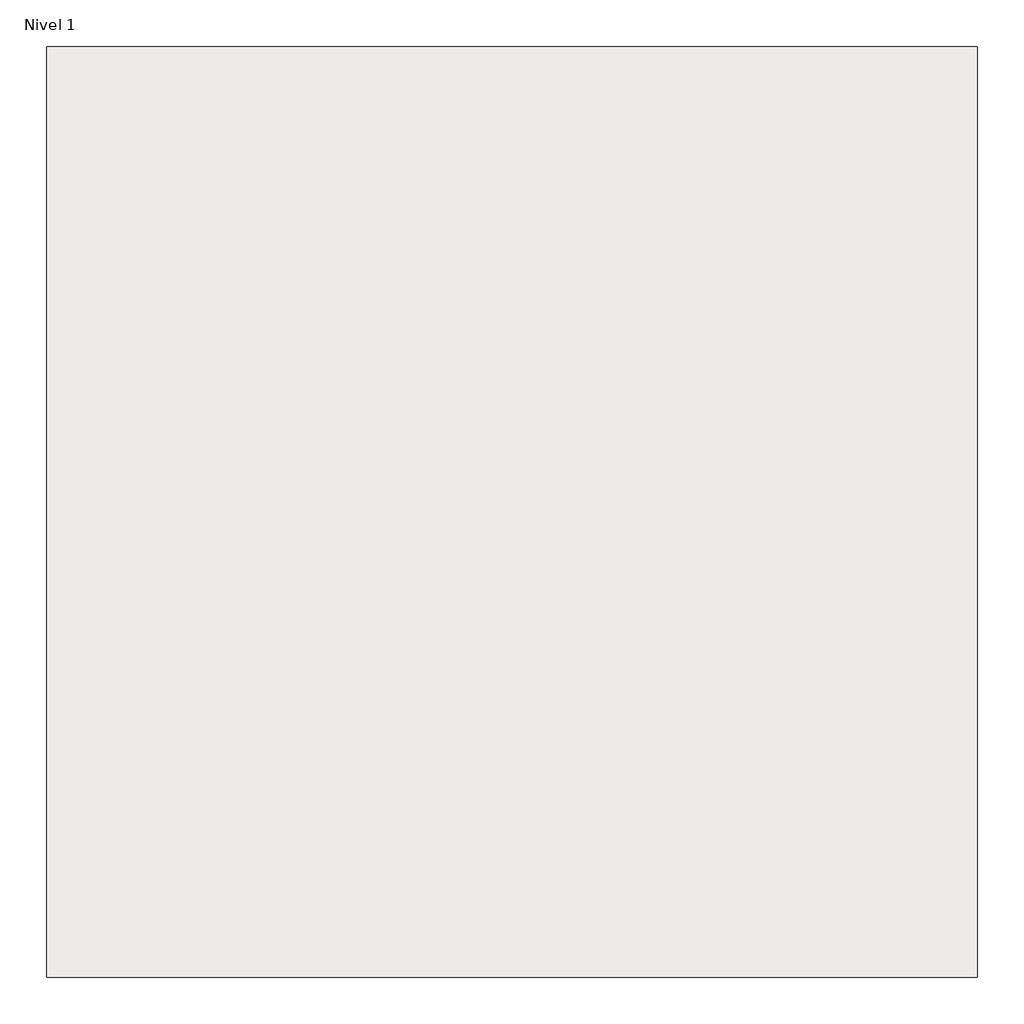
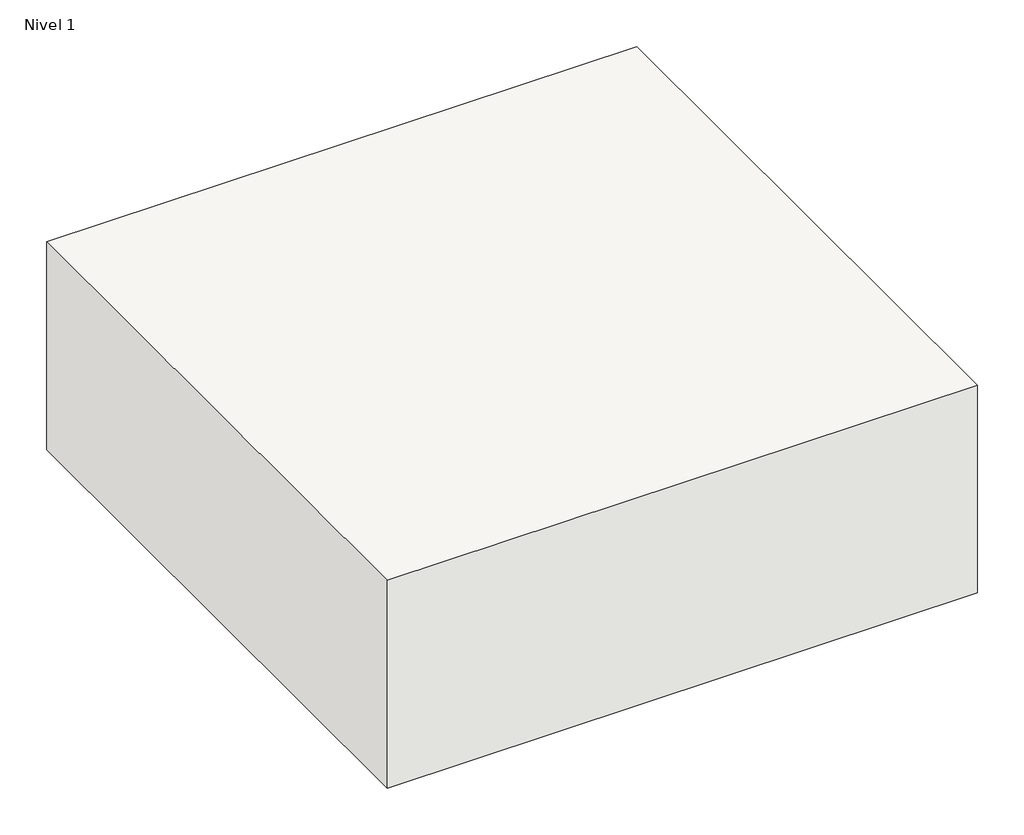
# One storey: 1 slab.
"""IFC4 building model written with IfcOpenShell, lengths in millimetres."""

import ifcopenshell
import ifcopenshell.guid

model = None  # the IFC model being written
_history = None  # IfcOwnerHistory: only IFC2X3 demands one
_inside = {}  # id of a spatial element -> (the spatial element, [elements in it])
_under = {}  # id of a project, library or spatial element -> (it, [spatial elements below it])
_declared = {}  # id of a project -> (the project, [libraries it declares])
_typed = {}  # id of a type object -> (the type object, [elements of that type])
_made_of = {}  # id of a material, layer set ... -> (it, [elements and type objects made of it])


def new_model(schema):
    """Start an empty IFC model of exactly this schema.

    Asked for "IFC4X3", IfcOpenShell would pick the latest addendum, in which some entities
    have other attributes; the version numbers below select the first issue.
    IFC2X3 requires an IfcOwnerHistory on every rooted entity: one is made here for all.
    """
    global model, _history
    if schema == "IFC4X3":
        model = ifcopenshell.file(schema_version=(4, 3, 0, 0))
    else:
        model = ifcopenshell.file(schema=schema)
    _inside.clear()
    _under.clear()
    _declared.clear()
    _typed.clear()
    _made_of.clear()
    _history = None
    if model.schema == "IFC2X3":
        org = make("IfcOrganization", Name="unknown")
        user = make(
            "IfcPersonAndOrganization",
            ThePerson=make("IfcPerson", FamilyName="unknown"),
            TheOrganization=org,
        )
        app = make(
            "IfcApplication",
            ApplicationDeveloper=org,
            Version="unknown",
            ApplicationFullName="unknown",
            ApplicationIdentifier="unknown",
        )
        _history = make(
            "IfcOwnerHistory",
            OwningUser=user,
            OwningApplication=app,
            ChangeAction="ADDED",
            CreationDate=0,
        )
    return model


def make(cls, **values):
    """One entity of the class cls with the attributes given. An attribute that is None is left unset."""
    return model.create_entity(
        cls, **{name: value for name, value in values.items() if value is not None}
    )


def rooted(cls, **values):
    """An entity with a GlobalId (a new one), such as an element, a storey or a relation."""
    return make(cls, GlobalId=ifcopenshell.guid.new(), OwnerHistory=_history, **values)


def si_unit(unit_type, name, prefix=None):
    """IfcSIUnit, for example si_unit("LENGTHUNIT", "METRE", prefix="MILLI")."""
    return make("IfcSIUnit", UnitType=unit_type, Prefix=prefix, Name=name)


def assignment(units):
    """IfcUnitAssignment: the units of a project."""
    return None if units is None else make("IfcUnitAssignment", Units=units)


def point(xyz):
    """IfcCartesianPoint."""
    return None if xyz is None else make("IfcCartesianPoint", Coordinates=xyz)


def direction(xyz):
    """IfcDirection."""
    return None if xyz is None else make("IfcDirection", DirectionRatios=xyz)


def frame(location, z_axis=None, x_axis=None):
    """IfcAxis2Placement3D, a coordinate frame: its origin and axes. An axis left out is left unset."""
    return make(
        "IfcAxis2Placement3D",
        Location=point(location),
        Axis=direction(z_axis),
        RefDirection=direction(x_axis),
    )


def origin():
    """The frame at (0, 0, 0) with its axes left unset."""
    return frame((0.0, 0.0, 0.0))


def place(relative_to, where):
    """IfcLocalPlacement: puts the frame where relative to a parent placement (None: the world)."""
    return make(
        "IfcLocalPlacement", PlacementRelTo=relative_to, RelativePlacement=where
    )


def context(
    kind, dimensions, precision=None, world=None, true_north=None, identifier=None
):
    """IfcGeometricRepresentationContext, for example the 3D "Model" context."""
    return make(
        "IfcGeometricRepresentationContext",
        ContextIdentifier=identifier,
        ContextType=kind,
        CoordinateSpaceDimension=dimensions,
        Precision=precision,
        WorldCoordinateSystem=world,
        TrueNorth=true_north,
    )


def project(units=None, contexts=None):
    """IfcProject with its units and contexts."""
    return rooted(
        "IfcProject",
        Name="project",
        RepresentationContexts=contexts,
        UnitsInContext=assignment(units),
    )


def spatial(cls, under=None, at=None, **own):
    """A site, building, storey or space (cls), placed at a placement, below another one or the project."""
    s = rooted(cls, ObjectPlacement=at, **own)
    if under is not None:
        _under.setdefault(under.id(), (under, []))[1].append(s)
    return s


def polyline(points):
    """IfcPolyline through the points."""
    return make("IfcPolyline", Points=[point(p) for p in points])


def outline(outer, holes=None, kind="AREA"):
    """IfcArbitraryClosedProfileDef: a profile drawn as a closed curve; with holes, ...WithVoids."""
    if holes is None:
        return make("IfcArbitraryClosedProfileDef", ProfileType=kind, OuterCurve=outer)
    return make(
        "IfcArbitraryProfileDefWithVoids",
        ProfileType=kind,
        OuterCurve=outer,
        InnerCurves=holes,
    )


def extrude(swept, where, along, depth):
    """IfcExtrudedAreaSolid: the profile swept, set in the frame where, extruded along a direction by depth."""
    return make(
        "IfcExtrudedAreaSolid",
        SweptArea=swept,
        Position=where,
        ExtrudedDirection=direction(along),
        Depth=depth,
    )


def shape(context_of_items, identifier, shape_type, items):
    """IfcShapeRepresentation: the items that make up one representation, for example the "Body"."""
    return make(
        "IfcShapeRepresentation",
        ContextOfItems=context_of_items,
        RepresentationIdentifier=identifier,
        RepresentationType=shape_type,
        Items=items,
    )


def made_of(thing, what):
    """Note that an element or type object is made of a material, layer set ...; save() writes the relation."""
    if what is not None:
        _made_of.setdefault(what.id(), (what, []))[1].append(thing)
    return thing


def element(
    cls,
    number,
    at=None,
    inside=None,
    cuts=None,
    type_object=None,
    material=None,
    context=None,
    identifier="Body",
    shape_type=None,
    held_by="IfcProductDefinitionShape",
    body=None,
    shapes=None,
    **own,
):
    """One element of the class cls, such as IfcWall. Its Tag is "e" and its number.

    at: its placement. inside: the storey or other place that contains it. cuts: it is an
    opening in that element (IfcRelVoidsElement). A single representation is given by context,
    identifier, shape_type and body (its items); several are given by shapes. held_by: the class
    of the entity that holds the representations. save() writes the other relations.
    """
    e = rooted(cls, Tag="e%d" % number, ObjectPlacement=at, **own)
    if body is not None:
        shapes = [shape(context, identifier, shape_type, body)]
    if shapes is not None:
        e.Representation = make(held_by, Representations=shapes)
    if inside is not None:
        _inside.setdefault(inside.id(), (inside, []))[1].append(e)
    if cuts is not None:
        rooted(
            "IfcRelVoidsElement", RelatingBuildingElement=cuts, RelatedOpeningElement=e
        )
    if type_object is not None:
        _typed.setdefault(type_object.id(), (type_object, []))[1].append(e)
    return made_of(e, material)


def aggregate(whole, parts):
    """IfcRelAggregates: a whole, such as a stair, and the parts it consists of."""
    return rooted("IfcRelAggregates", RelatingObject=whole, RelatedObjects=parts)


def save(model, path):
    """Write the relations noted so far, then the file.

    IfcRelAggregates (storeys below a building ...), IfcRelContainedInSpatialStructure (elements
    in a storey), IfcRelDefinesByType, IfcRelAssociatesMaterial and IfcRelDeclares: one each for
    every whole, place, type object, material and project.
    """
    for whole, parts in _under.values():
        aggregate(whole, parts)
    for where, things in _inside.values():
        rooted(
            "IfcRelContainedInSpatialStructure",
            RelatedElements=things,
            RelatingStructure=where,
        )
    for kind, things in _typed.values():
        rooted("IfcRelDefinesByType", RelatedObjects=things, RelatingType=kind)
    for what, things in _made_of.values():
        rooted("IfcRelAssociatesMaterial", RelatedObjects=things, RelatingMaterial=what)
    for by, libraries in _declared.values():
        rooted("IfcRelDeclares", RelatingContext=by, RelatedDefinitions=libraries)
    model.write(path)


model = new_model("IFC4")

# Units and contexts
model_context = context("Model", 3, world=origin())
ifc_project = project(units=[si_unit("LENGTHUNIT", "METRE", prefix="MILLI")], contexts=[model_context])

# Site, building, storey
site = spatial("IfcSite", under=ifc_project)
building = spatial("IfcBuilding", under=site)
storey = spatial("IfcBuildingStorey", under=building, Name="Nivel 1", Elevation=0.0)

# Slab
placement = place(None, origin())
element("IfcSlab", 1, ObjectType="Suelo flotante impacto y aéreo - Sistema S06", at=placement, inside=storey, context=model_context, shape_type="SweptSolid", body=[
    extrude(outline(polyline([(-3481.3346139, -2999.8684589), (-4481.3346139, -2999.8684589), (-4481.3346139, -1999.8684589), (-3481.3346139, -1999.8684589), (-3481.3346139, -2999.8684589)])), frame((0.0, 0.0, -372.0), z_axis=(0.0, 0.0, 1.0), x_axis=(1.0, 0.0, 0.0)), (0.0, 0.0, 1.0), 372.0),
])

save(model, "model.ifc")
